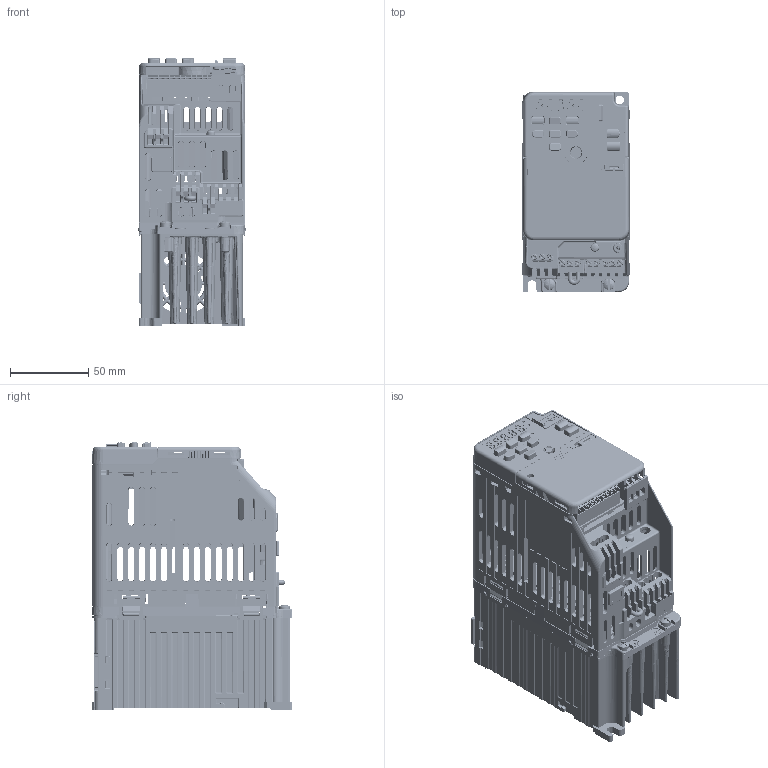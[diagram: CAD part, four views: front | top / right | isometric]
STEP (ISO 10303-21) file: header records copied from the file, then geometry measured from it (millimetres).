
FILE_DESCRIPTION((''),'2;1');
FILE_NAME('KIPR-GA50_Q_2006_ASM','2019-03-26T',('jam'),('YASKAWA ELECTRIC CORCORATION'),'PRO/ENGINEER BY PARAMETRIC TECHNOLOGY CORPORATION, 2015440','PRO/ENGINEER BY PARAMETRIC TECHNOLOGY CORPORATION, 2015440','');
FILE_SCHEMA(('CONFIG_CONTROL_DESIGN'));
Products named in the file (54): LAY_KIPR-GA50_Q_2006; 400-120-371; MMF-04C24DH-CO3_1; XAP-02V-1; 300-107-400_ASM; 400-120-373; SCAT41159-101; 400-098-617-002; 400-098-640-01F-5_6PCB; MKDSN2P5_5; ETP760431_6PCB_ASM; 400-098-640-01F-5_5PCB_AF1; SPTA1_3-5P0; MKDSN2P5_3; ETP761881_5PCB_ASM; 400-098-641-02D-4; ETX731410_ASM; GA500_V1_EMC_200V_ASM; 400-098-621; HSR-M3-5P3; 400-098-621_ASM; 400-104-023-01F-5; 95003-2884; B12B-PASK-1; 1734753-1_AF1; DHB-PD20-S131N-4P9_AF1; KARI_SPTA1_9-3P5_AF0; KARI_SPTA1_8-3P5_AF0; SPTA1_11-3P5_AF0; SPTA1_3-5P0_AF0; KTC750050-SXXXX_ASM; F354371; F354373; F354374; F354372; V-GEM_PWB2; 55265-0811_AF0; SM10B-SURS-TF_1; V-GIM_PWB_ASM2_ASM; GA500_KEYPAD_20180227_ASM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
Assembly tree (55 placements, depth 4):
  KIPR-GA50_Q_2006_ASM
    LAY_KIPR-GA50_Q_2006
    400-120-371
    300-107-400_ASM
      MMF-04C24DH-CO3_1
      XAP-02V-1
    400-120-373
    SCAT41159-101  x2
    400-098-617-002
    ETP760431_6PCB_ASM
      400-098-640-01F-5_6PCB
      MKDSN2P5_5
    ETP761881_5PCB_ASM
      400-098-640-01F-5_5PCB_AF1
      SPTA1_3-5P0
      MKDSN2P5_3
    GA500_V1_EMC_200V_ASM
      ETX731410_ASM
        400-098-641-02D-4
        MKDSN2P5_3
    400-098-621_ASM
      400-098-621
      HSR-M3-5P3
    KTC750050-SXXXX_ASM
      400-104-023-01F-5
      95003-2884
      B12B-PASK-1
      1734753-1_AF1
      DHB-PD20-S131N-4P9_AF1
      KARI_SPTA1_9-3P5_AF0
      KARI_SPTA1_8-3P5_AF0
      SPTA1_11-3P5_AF0
      SPTA1_3-5P0_AF0
    GA500_KEYPAD_20180227_ASM
      F354371
      F354373
      F354374
      F354372
      V-GIM_PWB_ASM2_ASM
        V-GEM_PWB2
        55265-0811_AF0
        SM10B-SURS-TF_1
    400-104-186
    400-104-251
    400-115-297-001
    MS15_M3X16
    400-108-079
    400-104-204_1
    400-104-204_2
    400-104-204_3
    400-104-206_1
    400-118-612_1
    400-118-612_2
    400-118-612_3
    400-104-204_5
Bounding box: 68.55 x 128.29 x 170.75 mm (x, y, z)
Volume: 361166.6 mm3; surface area: 308230.1 mm2
Topology: 45 solids, 45 shells, 15625 faces, 42188 edges, 26993 vertices
Faces by surface type: plane 10383, cylinder 2873, bspline 934, cone 895, torus 313, sphere 227
Entity records: 530430 total; most frequent: CARTESIAN_POINT 153834, ORIENTED_EDGE 82280, DIRECTION 71430, EDGE_CURVE 41140, VECTOR 30522, LINE 30522, VERTEX_POINT 26340, AXIS2_PLACEMENT_3D 20454
